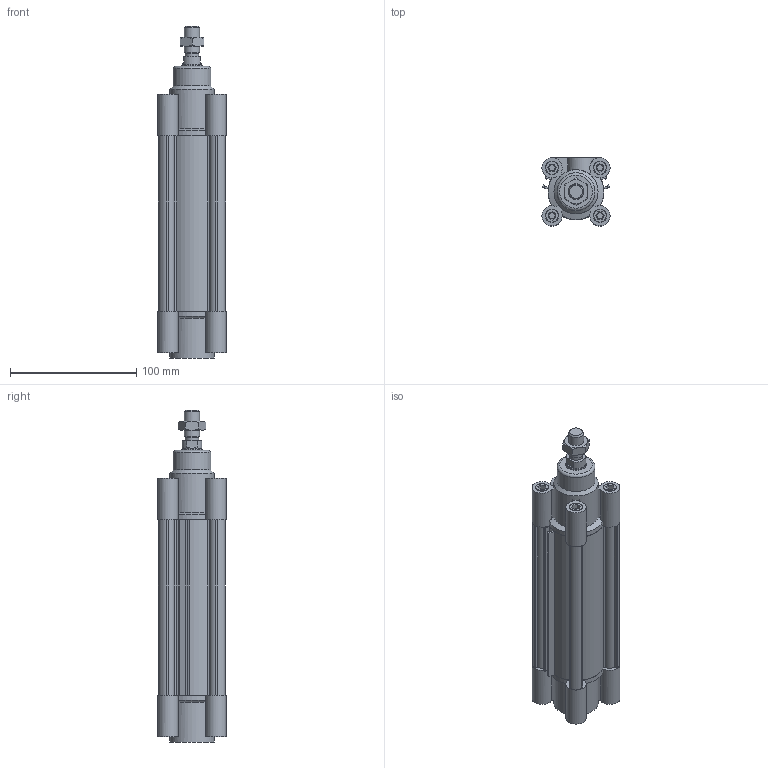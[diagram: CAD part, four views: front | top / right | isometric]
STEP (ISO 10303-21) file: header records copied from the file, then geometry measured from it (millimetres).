
FILE_DESCRIPTION((''),'2;1');
FILE_NAME('I:\Area Tecnica\Disegni\VARIE-3D\Componenti\ECOLIGHT\139#.##_0000_01\stp\139#_40_0100_01.iam.stp','2012-01-28T07:58:27',(''),(''),'Autodesk Inventor 2012','Autodesk Inventor 2012','');
FILE_SCHEMA(('AUTOMOTIVE_DESIGN { 1 0 10303 214 1 1 1 1 }'));
Length unit declared in the file: millimetre
Products named in the file (6): 139#_40_0100_01; CPL040_004-100; CPL040-001-01; CPL040-002-01; CPL_40_0100; 1320_40_18F
Assembly tree (5 placements, depth 2):
  139#_40_0100_01
    CPL040_004-100
    CPL040-001-01
    CPL040-002-01
    CPL_40_0100
    1320_40_18F
Bounding box: 54 x 54 x 263 mm (x, y, z)
Volume: 313595.4 mm3; surface area: 128779 mm2
Topology: 5 solids, 5 shells, 316 faces, 788 edges, 522 vertices
Faces by surface type: plane 200, cylinder 91, cone 24, torus 1
Full cylindrical faces by diameter (mm): 5 x8, 5.5 x4, 8 x2, 10 x8, 10.5 x9, 10.8 x1, 11.6 x2, 12 x1, 15.5 x1, 16 x2, 30 x1, 35 x2, 40 x4
Entity records: 9416 total; most frequent: CARTESIAN_POINT 1761, DIRECTION 1538, ORIENTED_EDGE 1442, EDGE_CURVE 721, AXIS2_PLACEMENT_3D 544, VERTEX_POINT 507, VECTOR 450, LINE 450
